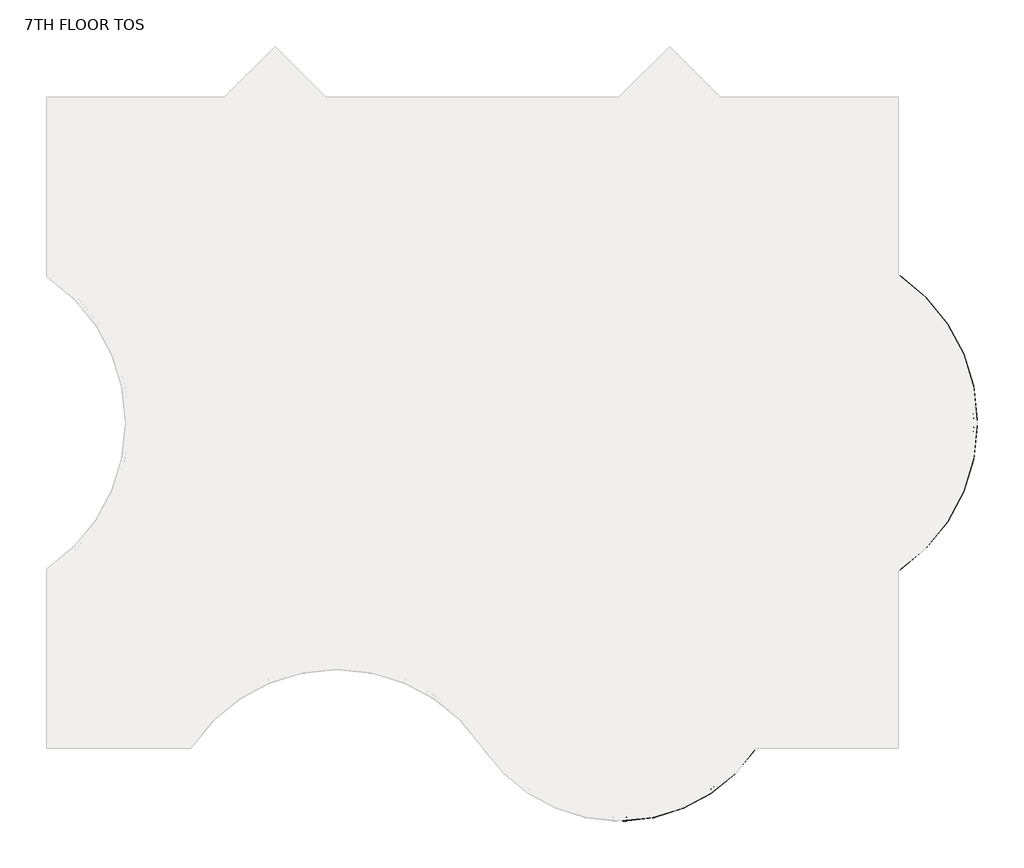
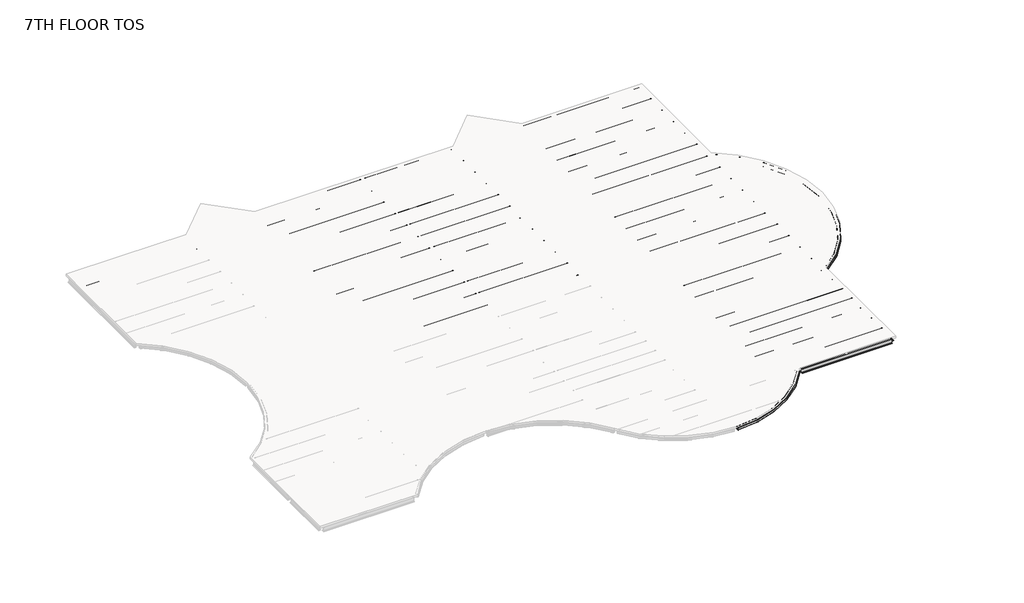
# One storey, part 2 of 2: 110 beams.
"""IFC4 building model written with IfcOpenShell, lengths in millimetres."""

from ifc_helpers import new_model, si_unit, origin, place, context, project, spatial, transform, mapped, element, save
from components import m_hss_square_hss203_2x203_2x9_5_28e91a4e, m_hss_square_hss203_2x203_2x9_5_f31329aa, m_hss_square_hss203_2x203_2x9_5_63507dff, ub_universal_beams_ub254x102x28_7812688d, ub_universal_beams_ub254x102x28_4a38c177, ub_universal_beams_ub305x165x40_c4d0385b, ub_universal_beams_ub305x165x40_19965e16, ub_universal_beams_ub305x165x40_d3abc31d, ub_universal_beams_ub305x165x40_0c73730f, ub_universal_beams_ub305x165x40_2a963f0c, ub_universal_beams_ub305x165x40_9ce7f2ee, ub_universal_beams_ub305x165x40_d184adfd, ub_universal_beams_ub305x165x40_bc7dc938, ub_universal_beams_ub305x165x40_b4233d25, ub_universal_beams_ub356x171x51_c708c058, ub_universal_beams_ub356x171x51_ef72dcdd, ub_universal_beams_ub356x171x51_10b3c54f, ub_universal_beams_ub356x171x51_4c9fd821, ub_universal_beams_ub356x171x51_d1a87c3c, ub_universal_beams_ub356x171x51_fa75724b, ub_universal_beams_ub356x171x51_68db896e, ub_universal_beams_ub356x171x51_c634c4a6, ub_universal_beams_ub356x171x51_995f1560, ub_universal_beams_ub356x171x51_dfc36663, ub_universal_beams_ub356x171x51_11d6b780, ub_universal_beams_ub356x171x51_76b2d20b, ub_universal_beams_ub356x171x51_145ecd4b, ub_universal_beams_ub356x171x51_c7dff8d2, ub_universal_beams_ub356x171x51_8a345439, ub_universal_beams_ub356x171x51_6da510e9, ub_universal_beams_ub356x171x51_e97f8d2e, ub_universal_beams_ub356x171x51_a38b99de, ub_universal_beams_ub356x171x51_d8f4cdde, ub_universal_beams_ub356x171x51_475301e6, ub_universal_beams_ub356x171x51_c03c70fb, ub_universal_beams_ub356x171x51_741bae58

model = new_model("IFC4")

# Units and contexts
model_context = context("Model", 3, world=origin())
ifc_project = project(units=[si_unit("LENGTHUNIT", "METRE", prefix="MILLI")], contexts=[model_context])

# Site, building, storey
site = spatial("IfcSite", under=ifc_project)
building = spatial("IfcBuilding", under=site)
storey = spatial("IfcBuildingStorey", under=building, Name="7TH FLOOR TOS", Elevation=31851.6)

# Beams
placement = place(None, origin())
m_hss_square_hss203_2x203_2x9_5_shape = m_hss_square_hss203_2x203_2x9_5_28e91a4e(model_context)
element("IfcBeam", 1, ObjectType="M_HSS Square : HSS203.2X203.2X9.5", at=placement, inside=storey, context=model_context, shape_type="MappedRepresentation", body=[
    mapped(m_hss_square_hss203_2x203_2x9_5_shape, transform((44027.575, 24539.575, 31750.1), x_axis=(0.8332810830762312, -0.5528495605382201, 0.0), y_axis=(0.5528495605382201, 0.8332810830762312, 0.0), z_axis=(0.0, 0.0, 1.0))),
])
m_hss_square_hss203_2x203_2x9_5_2_shape = m_hss_square_hss203_2x203_2x9_5_f31329aa(model_context)
element("IfcBeam", 2, ObjectType="M_HSS Square : HSS203.2X203.2X9.5", at=placement, inside=storey, context=model_context, shape_type="MappedRepresentation", body=[
    mapped(m_hss_square_hss203_2x203_2x9_5_2_shape, transform((44027.575, 9299.575, 31750.1), x_axis=(0.8332810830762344, 0.5528495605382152, 0.0), y_axis=(-0.5528495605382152, 0.8332810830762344, 0.0), z_axis=(0.0, 0.0, 1.0))),
])
m_hss_square_hss203_2x203_2x9_5_3_shape = m_hss_square_hss203_2x203_2x9_5_63507dff(model_context)
element("IfcBeam", 3, ObjectType="M_HSS Square : HSS203.2X203.2X9.5", at=placement, inside=storey, context=model_context, shape_type="MappedRepresentation", body=[
    mapped(m_hss_square_hss203_2x203_2x9_5_3_shape, transform((36716.575, 155.575, 31750.1), x_axis=(-0.5530174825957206, -0.8331696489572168, 0.0), y_axis=(0.8331696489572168, -0.5530174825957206, 0.0), z_axis=(0.0, 0.0, 1.0))),
])
ub_universal_beams_ub254x102x28_shape = ub_universal_beams_ub254x102x28_7812688d(model_context)
element("IfcBeam", 4, ObjectType="UB-Universal Beams : UB254x102x28", at=placement, inside=storey, context=model_context, shape_type="MappedRepresentation", body=[
    mapped(ub_universal_beams_ub254x102x28_shape, transform((10592.575, 34976.575, 31721.4), x_axis=(0.7071067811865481, 0.7071067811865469, 0.0), y_axis=(-0.7071067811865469, 0.7071067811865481, 0.0), z_axis=(0.0, 0.0, 1.0))),
])
element("IfcBeam", 5, ObjectType="UB-Universal Beams : UB254x102x28", at=placement, inside=storey, context=model_context, shape_type="MappedRepresentation", body=[
    mapped(ub_universal_beams_ub254x102x28_shape, transform((31004.575, 34976.575, 31721.4), x_axis=(0.7071067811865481, 0.7071067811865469, 0.0), y_axis=(-0.7071067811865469, 0.7071067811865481, 0.0), z_axis=(0.0, 0.0, 1.0))),
])
ub_universal_beams_ub254x102x28_2_shape = ub_universal_beams_ub254x102x28_4a38c177(model_context)
element("IfcBeam", 6, ObjectType="UB-Universal Beams : UB254x102x28", at=placement, inside=storey, context=model_context, shape_type="MappedRepresentation", body=[
    mapped(ub_universal_beams_ub254x102x28_2_shape, transform((13178.575, 34976.575, 31721.4), x_axis=(0.707106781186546, -0.707106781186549, 0.0), y_axis=(0.707106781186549, 0.707106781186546, 0.0), z_axis=(0.0, 0.0, 1.0))),
])
element("IfcBeam", 7, ObjectType="UB-Universal Beams : UB254x102x28", at=placement, inside=storey, context=model_context, shape_type="MappedRepresentation", body=[
    mapped(ub_universal_beams_ub254x102x28_2_shape, transform((33590.575, 34976.575, 31721.4), x_axis=(0.7071067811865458, -0.7071067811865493, 0.0), y_axis=(0.7071067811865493, 0.7071067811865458, 0.0), z_axis=(0.0, 0.0, 1.0))),
])
ub_universal_beams_ub305x165x40_shape = ub_universal_beams_ub305x165x40_c4d0385b(model_context)
element("IfcBeam", 8, ObjectType="UB-Universal Beams : UB305x165x40", at=placement, inside=storey, context=model_context, shape_type="MappedRepresentation", body=[
    mapped(ub_universal_beams_ub305x165x40_shape, transform((4727.575, 32159.575, 31699.9), x_axis=(1.0, 0.0, 0.0), y_axis=(0.0, 1.0, 0.0), z_axis=(0.0, 0.0, 1.0))),
])
element("IfcBeam", 9, ObjectType="UB-Universal Beams : UB305x165x40", at=placement, inside=storey, context=model_context, shape_type="MappedRepresentation", body=[
    mapped(ub_universal_beams_ub305x165x40_shape, transform((39455.575, 32159.575, 31699.9), x_axis=(1.0, 0.0, 0.0), y_axis=(0.0, 1.0, 0.0), z_axis=(0.0, 0.0, 1.0))),
])
element("IfcBeam", 10, ObjectType="UB-Universal Beams : UB305x165x40", at=placement, inside=storey, context=model_context, shape_type="MappedRepresentation", body=[
    mapped(ub_universal_beams_ub305x165x40_shape, transform((39455.575, 30635.575, 31699.9), x_axis=(1.0, 0.0, 0.0), y_axis=(0.0, 1.0, 0.0), z_axis=(0.0, 0.0, 1.0))),
])
element("IfcBeam", 11, ObjectType="UB-Universal Beams : UB305x165x40", at=placement, inside=storey, context=model_context, shape_type="MappedRepresentation", body=[
    mapped(ub_universal_beams_ub305x165x40_shape, transform((39455.575, 29111.575, 31699.9), x_axis=(1.0, 0.0, 0.0), y_axis=(0.0, 1.0, 0.0), z_axis=(0.0, 0.0, 1.0))),
])
element("IfcBeam", 12, ObjectType="UB-Universal Beams : UB305x165x40", at=placement, inside=storey, context=model_context, shape_type="MappedRepresentation", body=[
    mapped(ub_universal_beams_ub305x165x40_shape, transform((39455.575, 27587.575, 31699.9), x_axis=(1.0, 0.0, 0.0), y_axis=(0.0, 1.0, 0.0), z_axis=(0.0, 0.0, 1.0))),
])
element("IfcBeam", 13, ObjectType="UB-Universal Beams : UB305x165x40", at=placement, inside=storey, context=model_context, shape_type="MappedRepresentation", body=[
    mapped(ub_universal_beams_ub305x165x40_shape, transform((39455.575, 26063.575, 31699.9), x_axis=(1.0, 0.0, 0.0), y_axis=(0.0, 1.0, 0.0), z_axis=(0.0, 0.0, 1.0))),
])
element("IfcBeam", 14, ObjectType="UB-Universal Beams : UB305x165x40", at=placement, inside=storey, context=model_context, shape_type="MappedRepresentation", body=[
    mapped(ub_universal_beams_ub305x165x40_shape, transform((39455.575, 23015.575, 31699.9), x_axis=(1.0, 0.0, 0.0), y_axis=(0.0, 1.0, 0.0), z_axis=(0.0, 0.0, 1.0))),
])
element("IfcBeam", 15, ObjectType="UB-Universal Beams : UB305x165x40", at=placement, inside=storey, context=model_context, shape_type="MappedRepresentation", body=[
    mapped(ub_universal_beams_ub305x165x40_shape, transform((39455.575, 21491.575, 31699.9), x_axis=(1.0, 0.0, 0.0), y_axis=(0.0, 1.0, 0.0), z_axis=(0.0, 0.0, 1.0))),
])
element("IfcBeam", 16, ObjectType="UB-Universal Beams : UB305x165x40", at=placement, inside=storey, context=model_context, shape_type="MappedRepresentation", body=[
    mapped(ub_universal_beams_ub305x165x40_shape, transform((39455.575, 19967.575, 31699.9), x_axis=(1.0, 0.0, 0.0), y_axis=(0.0, 1.0, 0.0), z_axis=(0.0, 0.0, 1.0))),
])
element("IfcBeam", 17, ObjectType="UB-Universal Beams : UB305x165x40", at=placement, inside=storey, context=model_context, shape_type="MappedRepresentation", body=[
    mapped(ub_universal_beams_ub305x165x40_shape, transform((39455.575, 18443.575, 31699.9), x_axis=(1.0, 0.0, 0.0), y_axis=(0.0, 1.0, 0.0), z_axis=(0.0, 0.0, 1.0))),
])
element("IfcBeam", 18, ObjectType="UB-Universal Beams : UB305x165x40", at=placement, inside=storey, context=model_context, shape_type="MappedRepresentation", body=[
    mapped(ub_universal_beams_ub305x165x40_shape, transform((39455.575, 15395.575, 31699.9), x_axis=(1.0, 0.0, 0.0), y_axis=(0.0, 1.0, 0.0), z_axis=(0.0, 0.0, 1.0))),
])
element("IfcBeam", 19, ObjectType="UB-Universal Beams : UB305x165x40", at=placement, inside=storey, context=model_context, shape_type="MappedRepresentation", body=[
    mapped(ub_universal_beams_ub305x165x40_shape, transform((39455.575, 13871.575, 31699.9), x_axis=(1.0, 0.0, 0.0), y_axis=(0.0, 1.0, 0.0), z_axis=(0.0, 0.0, 1.0))),
])
element("IfcBeam", 20, ObjectType="UB-Universal Beams : UB305x165x40", at=placement, inside=storey, context=model_context, shape_type="MappedRepresentation", body=[
    mapped(ub_universal_beams_ub305x165x40_shape, transform((39455.575, 12347.575, 31699.9), x_axis=(1.0, 0.0, 0.0), y_axis=(0.0, 1.0, 0.0), z_axis=(0.0, 0.0, 1.0))),
])
element("IfcBeam", 21, ObjectType="UB-Universal Beams : UB305x165x40", at=placement, inside=storey, context=model_context, shape_type="MappedRepresentation", body=[
    mapped(ub_universal_beams_ub305x165x40_shape, transform((39455.575, 10823.575, 31699.9), x_axis=(1.0, 0.0, 0.0), y_axis=(0.0, 1.0, 0.0), z_axis=(0.0, 0.0, 1.0))),
])
element("IfcBeam", 22, ObjectType="UB-Universal Beams : UB305x165x40", at=placement, inside=storey, context=model_context, shape_type="MappedRepresentation", body=[
    mapped(ub_universal_beams_ub305x165x40_shape, transform((39455.575, 5508.325, 31699.9), x_axis=(-1.0, 0.0, 0.0), y_axis=(0.0, -1.0, 0.0), z_axis=(0.0, 0.0, 1.0))),
])
element("IfcBeam", 23, ObjectType="UB-Universal Beams : UB305x165x40", at=placement, inside=storey, context=model_context, shape_type="MappedRepresentation", body=[
    mapped(ub_universal_beams_ub305x165x40_shape, transform((39455.575, 6772.075, 31699.9), x_axis=(-1.0, 0.0, 0.0), y_axis=(0.0, -1.0, 0.0), z_axis=(0.0, 0.0, 1.0))),
])
element("IfcBeam", 24, ObjectType="UB-Universal Beams : UB305x165x40", at=placement, inside=storey, context=model_context, shape_type="MappedRepresentation", body=[
    mapped(ub_universal_beams_ub305x165x40_shape, transform((39455.575, 8035.825, 31699.9), x_axis=(-1.0, 0.0, 0.0), y_axis=(0.0, -1.0, 0.0), z_axis=(0.0, 0.0, 1.0))),
])
element("IfcBeam", 25, ObjectType="UB-Universal Beams : UB305x165x40", at=placement, inside=storey, context=model_context, shape_type="MappedRepresentation", body=[
    mapped(ub_universal_beams_ub305x165x40_shape, transform((39455.575, 1518.575, 31699.9), x_axis=(-1.0, 0.0, 0.0), y_axis=(0.0, -1.0, 0.0), z_axis=(0.0, 0.0, 1.0))),
])
element("IfcBeam", 26, ObjectType="UB-Universal Beams : UB305x165x40", at=placement, inside=storey, context=model_context, shape_type="MappedRepresentation", body=[
    mapped(ub_universal_beams_ub305x165x40_shape, transform((39455.575, 2881.575, 31699.9), x_axis=(-1.0, 0.0, 0.0), y_axis=(0.0, -1.0, 0.0), z_axis=(0.0, 0.0, 1.0))),
])
ub_universal_beams_ub305x165x40_2_shape = ub_universal_beams_ub305x165x40_19965e16(model_context)
element("IfcBeam", 27, ObjectType="UB-Universal Beams : UB305x165x40", at=placement, inside=storey, context=model_context, shape_type="MappedRepresentation", body=[
    mapped(ub_universal_beams_ub305x165x40_2_shape, transform((11885.575, 34803.325, 31699.9), x_axis=(1.0, 0.0, 0.0), y_axis=(0.0, 1.0, 0.0), z_axis=(0.0, 0.0, 1.0))),
])
element("IfcBeam", 28, ObjectType="UB-Universal Beams : UB305x165x40", at=placement, inside=storey, context=model_context, shape_type="MappedRepresentation", body=[
    mapped(ub_universal_beams_ub305x165x40_2_shape, transform((32297.575, 34803.325, 31699.9), x_axis=(1.0, 0.0, 0.0), y_axis=(0.0, 1.0, 0.0), z_axis=(0.0, 0.0, 1.0))),
])
ub_universal_beams_ub305x165x40_3_shape = ub_universal_beams_ub305x165x40_d3abc31d(model_context)
element("IfcBeam", 29, ObjectType="UB-Universal Beams : UB305x165x40", at=placement, inside=storey, context=model_context, shape_type="MappedRepresentation", body=[
    mapped(ub_universal_beams_ub305x165x40_3_shape, transform((11885.575, 33337.075, 31699.9), x_axis=(1.0, 0.0, 0.0), y_axis=(0.0, 1.0, 0.0), z_axis=(0.0, 0.0, 1.0))),
])
element("IfcBeam", 30, ObjectType="UB-Universal Beams : UB305x165x40", at=placement, inside=storey, context=model_context, shape_type="MappedRepresentation", body=[
    mapped(ub_universal_beams_ub305x165x40_3_shape, transform((11885.575, 31870.825, 31699.9), x_axis=(1.0, 0.0, 0.0), y_axis=(0.0, 1.0, 0.0), z_axis=(0.0, 0.0, 1.0))),
])
element("IfcBeam", 31, ObjectType="UB-Universal Beams : UB305x165x40", at=placement, inside=storey, context=model_context, shape_type="MappedRepresentation", body=[
    mapped(ub_universal_beams_ub305x165x40_3_shape, transform((11885.575, 30404.575, 31699.9), x_axis=(1.0, 0.0, 0.0), y_axis=(0.0, 1.0, 0.0), z_axis=(0.0, 0.0, 1.0))),
])
element("IfcBeam", 32, ObjectType="UB-Universal Beams : UB305x165x40", at=placement, inside=storey, context=model_context, shape_type="MappedRepresentation", body=[
    mapped(ub_universal_beams_ub305x165x40_3_shape, transform((32297.575, 33337.075, 31699.9), x_axis=(1.0, 0.0, 0.0), y_axis=(0.0, 1.0, 0.0), z_axis=(0.0, 0.0, 1.0))),
])
element("IfcBeam", 33, ObjectType="UB-Universal Beams : UB305x165x40", at=placement, inside=storey, context=model_context, shape_type="MappedRepresentation", body=[
    mapped(ub_universal_beams_ub305x165x40_3_shape, transform((32297.575, 31870.825, 31699.9), x_axis=(1.0, 0.0, 0.0), y_axis=(0.0, 1.0, 0.0), z_axis=(0.0, 0.0, 1.0))),
])
element("IfcBeam", 34, ObjectType="UB-Universal Beams : UB305x165x40", at=placement, inside=storey, context=model_context, shape_type="MappedRepresentation", body=[
    mapped(ub_universal_beams_ub305x165x40_3_shape, transform((32297.575, 30404.575, 31699.9), x_axis=(1.0, 0.0, 0.0), y_axis=(0.0, 1.0, 0.0), z_axis=(0.0, 0.0, 1.0))),
])
element("IfcBeam", 35, ObjectType="UB-Universal Beams : UB305x165x40", at=placement, inside=storey, context=model_context, shape_type="MappedRepresentation", body=[
    mapped(ub_universal_beams_ub305x165x40_3_shape, transform((32297.575, 28938.325, 31699.9), x_axis=(1.0, 0.0, 0.0), y_axis=(0.0, 1.0, 0.0), z_axis=(0.0, 0.0, 1.0))),
])
element("IfcBeam", 36, ObjectType="UB-Universal Beams : UB305x165x40", at=placement, inside=storey, context=model_context, shape_type="MappedRepresentation", body=[
    mapped(ub_universal_beams_ub305x165x40_3_shape, transform((32297.575, 27472.075, 31699.9), x_axis=(1.0, 0.0, 0.0), y_axis=(0.0, 1.0, 0.0), z_axis=(0.0, 0.0, 1.0))),
])
element("IfcBeam", 37, ObjectType="UB-Universal Beams : UB305x165x40", at=placement, inside=storey, context=model_context, shape_type="MappedRepresentation", body=[
    mapped(ub_universal_beams_ub305x165x40_3_shape, transform((32297.575, 26005.825, 31699.9), x_axis=(1.0, 0.0, 0.0), y_axis=(0.0, 1.0, 0.0), z_axis=(0.0, 0.0, 1.0))),
])
element("IfcBeam", 38, ObjectType="UB-Universal Beams : UB305x165x40", at=placement, inside=storey, context=model_context, shape_type="MappedRepresentation", body=[
    mapped(ub_universal_beams_ub305x165x40_3_shape, transform((32297.575, 1518.575, 31699.9), x_axis=(-1.0, 0.0, 0.0), y_axis=(0.0, -1.0, 0.0), z_axis=(0.0, 0.0, 1.0))),
])
element("IfcBeam", 39, ObjectType="UB-Universal Beams : UB305x165x40", at=placement, inside=storey, context=model_context, shape_type="MappedRepresentation", body=[
    mapped(ub_universal_beams_ub305x165x40_3_shape, transform((32297.575, 2881.575, 31699.9), x_axis=(-1.0, 0.0, 0.0), y_axis=(0.0, -1.0, 0.0), z_axis=(0.0, 0.0, 1.0))),
])
element("IfcBeam", 40, ObjectType="UB-Universal Beams : UB305x165x40", at=placement, inside=storey, context=model_context, shape_type="MappedRepresentation", body=[
    mapped(ub_universal_beams_ub305x165x40_3_shape, transform((32297.575, 5508.325, 31699.9), x_axis=(-1.0, 0.0, 0.0), y_axis=(0.0, -1.0, 0.0), z_axis=(0.0, 0.0, 1.0))),
])
element("IfcBeam", 41, ObjectType="UB-Universal Beams : UB305x165x40", at=placement, inside=storey, context=model_context, shape_type="MappedRepresentation", body=[
    mapped(ub_universal_beams_ub305x165x40_3_shape, transform((32297.575, 6772.075, 31699.9), x_axis=(-1.0, 0.0, 0.0), y_axis=(0.0, -1.0, 0.0), z_axis=(0.0, 0.0, 1.0))),
])
element("IfcBeam", 42, ObjectType="UB-Universal Beams : UB305x165x40", at=placement, inside=storey, context=model_context, shape_type="MappedRepresentation", body=[
    mapped(ub_universal_beams_ub305x165x40_3_shape, transform((32297.575, 8035.825, 31699.9), x_axis=(-1.0, 0.0, 0.0), y_axis=(0.0, -1.0, 0.0), z_axis=(0.0, 0.0, 1.0))),
])
element("IfcBeam", 43, ObjectType="UB-Universal Beams : UB305x165x40", at=placement, inside=storey, context=model_context, shape_type="MappedRepresentation", body=[
    mapped(ub_universal_beams_ub305x165x40_3_shape, transform((32297.575, 15395.575, 31699.9), x_axis=(1.0, 0.0, 0.0), y_axis=(0.0, 1.0, 0.0), z_axis=(0.0, 0.0, 1.0))),
])
element("IfcBeam", 44, ObjectType="UB-Universal Beams : UB305x165x40", at=placement, inside=storey, context=model_context, shape_type="MappedRepresentation", body=[
    mapped(ub_universal_beams_ub305x165x40_3_shape, transform((32297.575, 13871.575, 31699.9), x_axis=(1.0, 0.0, 0.0), y_axis=(0.0, 1.0, 0.0), z_axis=(0.0, 0.0, 1.0))),
])
element("IfcBeam", 45, ObjectType="UB-Universal Beams : UB305x165x40", at=placement, inside=storey, context=model_context, shape_type="MappedRepresentation", body=[
    mapped(ub_universal_beams_ub305x165x40_3_shape, transform((32297.575, 12347.575, 31699.9), x_axis=(1.0, 0.0, 0.0), y_axis=(0.0, 1.0, 0.0), z_axis=(0.0, 0.0, 1.0))),
])
element("IfcBeam", 46, ObjectType="UB-Universal Beams : UB305x165x40", at=placement, inside=storey, context=model_context, shape_type="MappedRepresentation", body=[
    mapped(ub_universal_beams_ub305x165x40_3_shape, transform((32297.575, 10823.575, 31699.9), x_axis=(1.0, 0.0, 0.0), y_axis=(0.0, 1.0, 0.0), z_axis=(0.0, 0.0, 1.0))),
])
element("IfcBeam", 47, ObjectType="UB-Universal Beams : UB305x165x40", at=placement, inside=storey, context=model_context, shape_type="MappedRepresentation", body=[
    mapped(ub_universal_beams_ub305x165x40_3_shape, transform((32297.575, 23015.575, 31699.9), x_axis=(1.0, 0.0, 0.0), y_axis=(0.0, 1.0, 0.0), z_axis=(0.0, 0.0, 1.0))),
])
element("IfcBeam", 48, ObjectType="UB-Universal Beams : UB305x165x40", at=placement, inside=storey, context=model_context, shape_type="MappedRepresentation", body=[
    mapped(ub_universal_beams_ub305x165x40_3_shape, transform((32297.575, 21491.575, 31699.9), x_axis=(1.0, 0.0, 0.0), y_axis=(0.0, 1.0, 0.0), z_axis=(0.0, 0.0, 1.0))),
])
element("IfcBeam", 49, ObjectType="UB-Universal Beams : UB305x165x40", at=placement, inside=storey, context=model_context, shape_type="MappedRepresentation", body=[
    mapped(ub_universal_beams_ub305x165x40_3_shape, transform((32297.575, 19967.575, 31699.9), x_axis=(1.0, 0.0, 0.0), y_axis=(0.0, 1.0, 0.0), z_axis=(0.0, 0.0, 1.0))),
])
element("IfcBeam", 50, ObjectType="UB-Universal Beams : UB305x165x40", at=placement, inside=storey, context=model_context, shape_type="MappedRepresentation", body=[
    mapped(ub_universal_beams_ub305x165x40_3_shape, transform((32297.575, 18443.575, 31699.9), x_axis=(1.0, 0.0, 0.0), y_axis=(0.0, 1.0, 0.0), z_axis=(0.0, 0.0, 1.0))),
])
ub_universal_beams_ub305x165x40_4_shape = ub_universal_beams_ub305x165x40_0c73730f(model_context)
element("IfcBeam", 51, ObjectType="UB-Universal Beams : UB305x165x40", at=placement, inside=storey, context=model_context, shape_type="MappedRepresentation", body=[
    mapped(ub_universal_beams_ub305x165x40_4_shape, transform((18591.075, 32159.575, 31699.9), x_axis=(1.0, 0.0, 0.0), y_axis=(0.0, 1.0, 0.0), z_axis=(0.0, 0.0, 1.0))),
])
element("IfcBeam", 52, ObjectType="UB-Universal Beams : UB305x165x40", at=placement, inside=storey, context=model_context, shape_type="MappedRepresentation", body=[
    mapped(ub_universal_beams_ub305x165x40_4_shape, transform((18591.075, 30635.575, 31699.9), x_axis=(1.0, 0.0, 0.0), y_axis=(0.0, 1.0, 0.0), z_axis=(0.0, 0.0, 1.0))),
])
element("IfcBeam", 53, ObjectType="UB-Universal Beams : UB305x165x40", at=placement, inside=storey, context=model_context, shape_type="MappedRepresentation", body=[
    mapped(ub_universal_beams_ub305x165x40_4_shape, transform((18591.075, 29111.575, 31699.9), x_axis=(1.0, 0.0, 0.0), y_axis=(0.0, 1.0, 0.0), z_axis=(0.0, 0.0, 1.0))),
])
element("IfcBeam", 54, ObjectType="UB-Universal Beams : UB305x165x40", at=placement, inside=storey, context=model_context, shape_type="MappedRepresentation", body=[
    mapped(ub_universal_beams_ub305x165x40_4_shape, transform((18591.075, 27587.575, 31699.9), x_axis=(1.0, 0.0, 0.0), y_axis=(0.0, 1.0, 0.0), z_axis=(0.0, 0.0, 1.0))),
])
element("IfcBeam", 55, ObjectType="UB-Universal Beams : UB305x165x40", at=placement, inside=storey, context=model_context, shape_type="MappedRepresentation", body=[
    mapped(ub_universal_beams_ub305x165x40_4_shape, transform((18591.075, 26063.575, 31699.9), x_axis=(1.0, 0.0, 0.0), y_axis=(0.0, 1.0, 0.0), z_axis=(0.0, 0.0, 1.0))),
])
element("IfcBeam", 56, ObjectType="UB-Universal Beams : UB305x165x40", at=placement, inside=storey, context=model_context, shape_type="MappedRepresentation", body=[
    mapped(ub_universal_beams_ub305x165x40_4_shape, transform((18591.075, 23015.575, 31699.9), x_axis=(1.0, 0.0, 0.0), y_axis=(0.0, 1.0, 0.0), z_axis=(0.0, 0.0, 1.0))),
])
element("IfcBeam", 57, ObjectType="UB-Universal Beams : UB305x165x40", at=placement, inside=storey, context=model_context, shape_type="MappedRepresentation", body=[
    mapped(ub_universal_beams_ub305x165x40_4_shape, transform((18591.075, 21491.575, 31699.9), x_axis=(1.0, 0.0, 0.0), y_axis=(0.0, 1.0, 0.0), z_axis=(0.0, 0.0, 1.0))),
])
element("IfcBeam", 58, ObjectType="UB-Universal Beams : UB305x165x40", at=placement, inside=storey, context=model_context, shape_type="MappedRepresentation", body=[
    mapped(ub_universal_beams_ub305x165x40_4_shape, transform((18591.075, 19967.575, 31699.9), x_axis=(1.0, 0.0, 0.0), y_axis=(0.0, 1.0, 0.0), z_axis=(0.0, 0.0, 1.0))),
])
element("IfcBeam", 59, ObjectType="UB-Universal Beams : UB305x165x40", at=placement, inside=storey, context=model_context, shape_type="MappedRepresentation", body=[
    mapped(ub_universal_beams_ub305x165x40_4_shape, transform((18591.075, 18443.575, 31699.9), x_axis=(1.0, 0.0, 0.0), y_axis=(0.0, 1.0, 0.0), z_axis=(0.0, 0.0, 1.0))),
])
ub_universal_beams_ub305x165x40_5_shape = ub_universal_beams_ub305x165x40_2a963f0c(model_context)
element("IfcBeam", 60, ObjectType="UB-Universal Beams : UB305x165x40", at=placement, inside=storey, context=model_context, shape_type="MappedRepresentation", body=[
    mapped(ub_universal_beams_ub305x165x40_5_shape, transform((26211.075, 32159.575, 31699.9), x_axis=(1.0, 0.0, 0.0), y_axis=(0.0, 1.0, 0.0), z_axis=(0.0, 0.0, 1.0))),
])
element("IfcBeam", 61, ObjectType="UB-Universal Beams : UB305x165x40", at=placement, inside=storey, context=model_context, shape_type="MappedRepresentation", body=[
    mapped(ub_universal_beams_ub305x165x40_5_shape, transform((26211.075, 30635.575, 31699.9), x_axis=(1.0, 0.0, 0.0), y_axis=(0.0, 1.0, 0.0), z_axis=(0.0, 0.0, 1.0))),
])
element("IfcBeam", 62, ObjectType="UB-Universal Beams : UB305x165x40", at=placement, inside=storey, context=model_context, shape_type="MappedRepresentation", body=[
    mapped(ub_universal_beams_ub305x165x40_5_shape, transform((26211.075, 29111.575, 31699.9), x_axis=(1.0, 0.0, 0.0), y_axis=(0.0, 1.0, 0.0), z_axis=(0.0, 0.0, 1.0))),
])
element("IfcBeam", 63, ObjectType="UB-Universal Beams : UB305x165x40", at=placement, inside=storey, context=model_context, shape_type="MappedRepresentation", body=[
    mapped(ub_universal_beams_ub305x165x40_5_shape, transform((26211.075, 27587.575, 31699.9), x_axis=(1.0, 0.0, 0.0), y_axis=(0.0, 1.0, 0.0), z_axis=(0.0, 0.0, 1.0))),
])
element("IfcBeam", 64, ObjectType="UB-Universal Beams : UB305x165x40", at=placement, inside=storey, context=model_context, shape_type="MappedRepresentation", body=[
    mapped(ub_universal_beams_ub305x165x40_5_shape, transform((26211.075, 26063.575, 31699.9), x_axis=(1.0, 0.0, 0.0), y_axis=(0.0, 1.0, 0.0), z_axis=(0.0, 0.0, 1.0))),
])
element("IfcBeam", 65, ObjectType="UB-Universal Beams : UB305x165x40", at=placement, inside=storey, context=model_context, shape_type="MappedRepresentation", body=[
    mapped(ub_universal_beams_ub305x165x40_5_shape, transform((26211.075, 23015.575, 31699.9), x_axis=(1.0, 0.0, 0.0), y_axis=(0.0, 1.0, 0.0), z_axis=(0.0, 0.0, 1.0))),
])
element("IfcBeam", 66, ObjectType="UB-Universal Beams : UB305x165x40", at=placement, inside=storey, context=model_context, shape_type="MappedRepresentation", body=[
    mapped(ub_universal_beams_ub305x165x40_5_shape, transform((26211.075, 21491.575, 31699.9), x_axis=(1.0, 0.0, 0.0), y_axis=(0.0, 1.0, 0.0), z_axis=(0.0, 0.0, 1.0))),
])
element("IfcBeam", 67, ObjectType="UB-Universal Beams : UB305x165x40", at=placement, inside=storey, context=model_context, shape_type="MappedRepresentation", body=[
    mapped(ub_universal_beams_ub305x165x40_5_shape, transform((26211.075, 19967.575, 31699.9), x_axis=(1.0, 0.0, 0.0), y_axis=(0.0, 1.0, 0.0), z_axis=(0.0, 0.0, 1.0))),
])
element("IfcBeam", 68, ObjectType="UB-Universal Beams : UB305x165x40", at=placement, inside=storey, context=model_context, shape_type="MappedRepresentation", body=[
    mapped(ub_universal_beams_ub305x165x40_5_shape, transform((26211.075, 18443.575, 31699.9), x_axis=(1.0, 0.0, 0.0), y_axis=(0.0, 1.0, 0.0), z_axis=(0.0, 0.0, 1.0))),
])
ub_universal_beams_ub305x165x40_6_shape = ub_universal_beams_ub305x165x40_9ce7f2ee(model_context)
element("IfcBeam", 69, ObjectType="UB-Universal Beams : UB305x165x40", at=placement, inside=storey, context=model_context, shape_type="MappedRepresentation", body=[
    mapped(ub_universal_beams_ub305x165x40_6_shape, transform((44907.9405309, 23015.575, 31699.9), x_axis=(1.0, 0.0, 0.0), y_axis=(0.0, 1.0, 0.0), z_axis=(0.0, 0.0, 1.0))),
])
element("IfcBeam", 70, ObjectType="UB-Universal Beams : UB305x165x40", at=placement, inside=storey, context=model_context, shape_type="MappedRepresentation", body=[
    mapped(ub_universal_beams_ub305x165x40_6_shape, transform((44907.9405309, 10823.575, 31699.9), x_axis=(1.0, 0.0, 0.0), y_axis=(0.0, 1.0, 0.0), z_axis=(0.0, 0.0, 1.0))),
])
ub_universal_beams_ub305x165x40_7_shape = ub_universal_beams_ub305x165x40_d184adfd(model_context)
element("IfcBeam", 71, ObjectType="UB-Universal Beams : UB305x165x40", at=placement, inside=storey, context=model_context, shape_type="MappedRepresentation", body=[
    mapped(ub_universal_beams_ub305x165x40_7_shape, transform((45459.5874928, 21491.575, 31699.9), x_axis=(1.0, 0.0, 0.0), y_axis=(0.0, 1.0, 0.0), z_axis=(0.0, 0.0, 1.0))),
])
element("IfcBeam", 72, ObjectType="UB-Universal Beams : UB305x165x40", at=placement, inside=storey, context=model_context, shape_type="MappedRepresentation", body=[
    mapped(ub_universal_beams_ub305x165x40_7_shape, transform((45459.5874928, 12347.575, 31699.9), x_axis=(1.0, 0.0, 0.0), y_axis=(0.0, 1.0, 0.0), z_axis=(0.0, 0.0, 1.0))),
])
ub_universal_beams_ub305x165x40_8_shape = ub_universal_beams_ub305x165x40_bc7dc938(model_context)
element("IfcBeam", 73, ObjectType="UB-Universal Beams : UB305x165x40", at=placement, inside=storey, context=model_context, shape_type="MappedRepresentation", body=[
    mapped(ub_universal_beams_ub305x165x40_8_shape, transform((45810.6153272, 19967.575, 31699.9), x_axis=(1.0, 0.0, 0.0), y_axis=(0.0, 1.0, 0.0), z_axis=(0.0, 0.0, 1.0))),
])
element("IfcBeam", 74, ObjectType="UB-Universal Beams : UB305x165x40", at=placement, inside=storey, context=model_context, shape_type="MappedRepresentation", body=[
    mapped(ub_universal_beams_ub305x165x40_8_shape, transform((45810.6153272, 13871.575, 31699.9), x_axis=(1.0, 0.0, 0.0), y_axis=(0.0, 1.0, 0.0), z_axis=(0.0, 0.0, 1.0))),
])
ub_universal_beams_ub305x165x40_9_shape = ub_universal_beams_ub305x165x40_b4233d25(model_context)
element("IfcBeam", 75, ObjectType="UB-Universal Beams : UB305x165x40", at=placement, inside=storey, context=model_context, shape_type="MappedRepresentation", body=[
    mapped(ub_universal_beams_ub305x165x40_9_shape, transform((46008.1318611, 18443.575, 31699.9), x_axis=(1.0, 0.0, 0.0), y_axis=(0.0, 1.0, 0.0), z_axis=(0.0, 0.0, 1.0))),
])
element("IfcBeam", 76, ObjectType="UB-Universal Beams : UB305x165x40", at=placement, inside=storey, context=model_context, shape_type="MappedRepresentation", body=[
    mapped(ub_universal_beams_ub305x165x40_9_shape, transform((46008.1318611, 15395.575, 31699.9), x_axis=(1.0, 0.0, 0.0), y_axis=(0.0, 1.0, 0.0), z_axis=(0.0, 0.0, 1.0))),
])
ub_universal_beams_ub356x171x51_shape = ub_universal_beams_ub356x171x51_c708c058(model_context)
element("IfcBeam", 77, ObjectType="UB-Universal Beams : UB356x171x51", at=placement, inside=storey, context=model_context, shape_type="MappedRepresentation", body=[
    mapped(ub_universal_beams_ub356x171x51_shape, transform((2200.075, 33683.575, 31674.1), x_axis=(1.0, 0.0, 0.0), y_axis=(0.0, 1.0, 0.0), z_axis=(0.0, 0.0, 1.0))),
])
ub_universal_beams_ub356x171x51_2_shape = ub_universal_beams_ub356x171x51_ef72dcdd(model_context)
element("IfcBeam", 78, ObjectType="UB-Universal Beams : UB356x171x51", at=placement, inside=storey, context=model_context, shape_type="MappedRepresentation", body=[
    mapped(ub_universal_beams_ub356x171x51_2_shape, transform((6772.075, 33683.575, 31674.1), x_axis=(1.0, 0.0, 0.0), y_axis=(0.0, 1.0, 0.0), z_axis=(0.0, 0.0, 1.0))),
])
element("IfcBeam", 79, ObjectType="UB-Universal Beams : UB356x171x51", at=placement, inside=storey, context=model_context, shape_type="MappedRepresentation", body=[
    mapped(ub_universal_beams_ub356x171x51_2_shape, transform((34883.575, 6772.075, 31674.1), x_axis=(0.0, -1.0, 0.0), y_axis=(1.0, 0.0, 0.0), z_axis=(0.0, 0.0, 1.0))),
])
ub_universal_beams_ub356x171x51_3_shape = ub_universal_beams_ub356x171x51_10b3c54f(model_context)
element("IfcBeam", 80, ObjectType="UB-Universal Beams : UB356x171x51", at=placement, inside=storey, context=model_context, shape_type="MappedRepresentation", body=[
    mapped(ub_universal_beams_ub356x171x51_3_shape, transform((18591.075, 33683.575, 31674.1), x_axis=(1.0, 0.0, 0.0), y_axis=(0.0, 1.0, 0.0), z_axis=(0.0, 0.0, 1.0))),
])
ub_universal_beams_ub356x171x51_4_shape = ub_universal_beams_ub356x171x51_4c9fd821(model_context)
element("IfcBeam", 81, ObjectType="UB-Universal Beams : UB356x171x51", at=placement, inside=storey, context=model_context, shape_type="MappedRepresentation", body=[
    mapped(ub_universal_beams_ub356x171x51_4_shape, transform((26211.075, 33683.575, 31674.1), x_axis=(1.0, 0.0, 0.0), y_axis=(0.0, 1.0, 0.0), z_axis=(0.0, 0.0, 1.0))),
])
ub_universal_beams_ub356x171x51_5_shape = ub_universal_beams_ub356x171x51_d1a87c3c(model_context)
element("IfcBeam", 82, ObjectType="UB-Universal Beams : UB356x171x51", at=placement, inside=storey, context=model_context, shape_type="MappedRepresentation", body=[
    mapped(ub_universal_beams_ub356x171x51_5_shape, transform((39455.575, 33683.575, 31674.1), x_axis=(1.0, 0.0, 0.0), y_axis=(0.0, 1.0, 0.0), z_axis=(0.0, 0.0, 1.0))),
])
ub_universal_beams_ub356x171x51_6_shape = ub_universal_beams_ub356x171x51_fa75724b(model_context)
element("IfcBeam", 83, ObjectType="UB-Universal Beams : UB356x171x51", at=placement, inside=storey, context=model_context, shape_type="MappedRepresentation", body=[
    mapped(ub_universal_beams_ub356x171x51_6_shape, transform((44027.575, 29111.575, 31674.1), x_axis=(0.0, -1.0, 0.0), y_axis=(1.0, 0.0, 0.0), z_axis=(0.0, 0.0, 1.0))),
])
ub_universal_beams_ub356x171x51_7_shape = ub_universal_beams_ub356x171x51_68db896e(model_context)
element("IfcBeam", 84, ObjectType="UB-Universal Beams : UB356x171x51", at=placement, inside=storey, context=model_context, shape_type="MappedRepresentation", body=[
    mapped(ub_universal_beams_ub356x171x51_7_shape, transform((44027.575, 6772.075, 31674.1), x_axis=(0.0, -1.0, 0.0), y_axis=(1.0, 0.0, 0.0), z_axis=(0.0, 0.0, 1.0))),
])
ub_universal_beams_ub356x171x51_8_shape = ub_universal_beams_ub356x171x51_c634c4a6(model_context)
element("IfcBeam", 85, ObjectType="UB-Universal Beams : UB356x171x51", at=placement, inside=storey, context=model_context, shape_type="MappedRepresentation", body=[
    mapped(ub_universal_beams_ub356x171x51_8_shape, transform((44027.575, 2200.075, 31674.1), x_axis=(0.0, -1.0, 0.0), y_axis=(1.0, 0.0, 0.0), z_axis=(0.0, 0.0, 1.0))),
])
ub_universal_beams_ub356x171x51_9_shape = ub_universal_beams_ub356x171x51_995f1560(model_context)
element("IfcBeam", 86, ObjectType="UB-Universal Beams : UB356x171x51", at=placement, inside=storey, context=model_context, shape_type="MappedRepresentation", body=[
    mapped(ub_universal_beams_ub356x171x51_9_shape, transform((40372.075, 155.575, 31674.1), x_axis=(-1.0, 0.0, 0.0), y_axis=(0.0, -1.0, 0.0), z_axis=(0.0, 0.0, 1.0))),
])
ub_universal_beams_ub356x171x51_10_shape = ub_universal_beams_ub356x171x51_dfc36663(model_context)
element("IfcBeam", 87, ObjectType="UB-Universal Beams : UB356x171x51", at=placement, inside=storey, context=model_context, shape_type="MappedRepresentation", body=[
    mapped(ub_universal_beams_ub356x171x51_10_shape, transform((46072.075, 16919.575, 31674.1), x_axis=(1.0, 0.0, 0.0), y_axis=(0.0, 1.0, 0.0), z_axis=(0.0, 0.0, 1.0))),
])
ub_universal_beams_ub356x171x51_11_shape = ub_universal_beams_ub356x171x51_11d6b780(model_context)
element("IfcBeam", 88, ObjectType="UB-Universal Beams : UB356x171x51", at=placement, inside=storey, context=model_context, shape_type="MappedRepresentation", body=[
    mapped(ub_universal_beams_ub356x171x51_11_shape, transform((32297.575, 24539.575, 31674.1), x_axis=(1.0, 0.0, 0.0), y_axis=(0.0, 1.0, 0.0), z_axis=(0.0, 0.0, 1.0))),
])
element("IfcBeam", 89, ObjectType="UB-Universal Beams : UB356x171x51", at=placement, inside=storey, context=model_context, shape_type="MappedRepresentation", body=[
    mapped(ub_universal_beams_ub356x171x51_11_shape, transform((32297.575, 9299.575, 31674.1), x_axis=(-1.0, 0.0, 0.0), y_axis=(0.0, -1.0, 0.0), z_axis=(0.0, 0.0, 1.0))),
])
element("IfcBeam", 90, ObjectType="UB-Universal Beams : UB356x171x51", at=placement, inside=storey, context=model_context, shape_type="MappedRepresentation", body=[
    mapped(ub_universal_beams_ub356x171x51_11_shape, transform((32297.575, 16919.575, 31674.1), x_axis=(1.0, 0.0, 0.0), y_axis=(0.0, 1.0, 0.0), z_axis=(0.0, 0.0, 1.0))),
])
element("IfcBeam", 91, ObjectType="UB-Universal Beams : UB356x171x51", at=placement, inside=storey, context=model_context, shape_type="MappedRepresentation", body=[
    mapped(ub_universal_beams_ub356x171x51_11_shape, transform((32297.575, 4244.575, 31674.1), x_axis=(-1.0, 0.0, 0.0), y_axis=(0.0, -1.0, 0.0), z_axis=(0.0, 0.0, 1.0))),
])
ub_universal_beams_ub356x171x51_12_shape = ub_universal_beams_ub356x171x51_76b2d20b(model_context)
element("IfcBeam", 92, ObjectType="UB-Universal Beams : UB356x171x51", at=placement, inside=storey, context=model_context, shape_type="MappedRepresentation", body=[
    mapped(ub_universal_beams_ub356x171x51_12_shape, transform((18591.075, 24539.575, 31674.1), x_axis=(1.0, 0.0, 0.0), y_axis=(0.0, 1.0, 0.0), z_axis=(0.0, 0.0, 1.0))),
])
element("IfcBeam", 93, ObjectType="UB-Universal Beams : UB356x171x51", at=placement, inside=storey, context=model_context, shape_type="MappedRepresentation", body=[
    mapped(ub_universal_beams_ub356x171x51_12_shape, transform((18591.075, 16919.575, 31674.1), x_axis=(1.0, 0.0, 0.0), y_axis=(0.0, 1.0, 0.0), z_axis=(0.0, 0.0, 1.0))),
])
ub_universal_beams_ub356x171x51_13_shape = ub_universal_beams_ub356x171x51_145ecd4b(model_context)
element("IfcBeam", 94, ObjectType="UB-Universal Beams : UB356x171x51", at=placement, inside=storey, context=model_context, shape_type="MappedRepresentation", body=[
    mapped(ub_universal_beams_ub356x171x51_13_shape, transform((26211.075, 24539.575, 31674.1), x_axis=(1.0, 0.0, 0.0), y_axis=(0.0, 1.0, 0.0), z_axis=(0.0, 0.0, 1.0))),
])
element("IfcBeam", 95, ObjectType="UB-Universal Beams : UB356x171x51", at=placement, inside=storey, context=model_context, shape_type="MappedRepresentation", body=[
    mapped(ub_universal_beams_ub356x171x51_13_shape, transform((26211.075, 16919.575, 31674.1), x_axis=(1.0, 0.0, 0.0), y_axis=(0.0, 1.0, 0.0), z_axis=(0.0, 0.0, 1.0))),
])
ub_universal_beams_ub356x171x51_14_shape = ub_universal_beams_ub356x171x51_c7dff8d2(model_context)
element("IfcBeam", 96, ObjectType="UB-Universal Beams : UB356x171x51", at=placement, inside=storey, context=model_context, shape_type="MappedRepresentation", body=[
    mapped(ub_universal_beams_ub356x171x51_14_shape, transform((39455.575, 24539.575, 31674.1), x_axis=(1.0, 0.0, 0.0), y_axis=(0.0, 1.0, 0.0), z_axis=(0.0, 0.0, 1.0))),
])
ub_universal_beams_ub356x171x51_15_shape = ub_universal_beams_ub356x171x51_8a345439(model_context)
element("IfcBeam", 97, ObjectType="UB-Universal Beams : UB356x171x51", at=placement, inside=storey, context=model_context, shape_type="MappedRepresentation", body=[
    mapped(ub_universal_beams_ub356x171x51_15_shape, transform((44027.575, 20729.575, 31674.1), x_axis=(0.0, -1.0, 0.0), y_axis=(1.0, 0.0, 0.0), z_axis=(0.0, 0.0, 1.0))),
])
ub_universal_beams_ub356x171x51_16_shape = ub_universal_beams_ub356x171x51_6da510e9(model_context)
element("IfcBeam", 98, ObjectType="UB-Universal Beams : UB356x171x51", at=placement, inside=storey, context=model_context, shape_type="MappedRepresentation", body=[
    mapped(ub_universal_beams_ub356x171x51_16_shape, transform((44027.575, 13109.575, 31674.1), x_axis=(0.0, -1.0, 0.0), y_axis=(1.0, 0.0, 0.0), z_axis=(0.0, 0.0, 1.0))),
])
ub_universal_beams_ub356x171x51_17_shape = ub_universal_beams_ub356x171x51_e97f8d2e(model_context)
element("IfcBeam", 99, ObjectType="UB-Universal Beams : UB356x171x51", at=placement, inside=storey, context=model_context, shape_type="MappedRepresentation", body=[
    mapped(ub_universal_beams_ub356x171x51_17_shape, transform((39455.575, 9299.575, 31674.1), x_axis=(-1.0, 0.0, 0.0), y_axis=(0.0, -1.0, 0.0), z_axis=(0.0, 0.0, 1.0))),
])
ub_universal_beams_ub356x171x51_18_shape = ub_universal_beams_ub356x171x51_a38b99de(model_context)
element("IfcBeam", 100, ObjectType="UB-Universal Beams : UB356x171x51", at=placement, inside=storey, context=model_context, shape_type="MappedRepresentation", body=[
    mapped(ub_universal_beams_ub356x171x51_18_shape, transform((34883.575, 20729.575, 31674.1), x_axis=(0.0, -1.0, 0.0), y_axis=(1.0, 0.0, 0.0), z_axis=(0.0, 0.0, 1.0))),
])
element("IfcBeam", 101, ObjectType="UB-Universal Beams : UB356x171x51", at=placement, inside=storey, context=model_context, shape_type="MappedRepresentation", body=[
    mapped(ub_universal_beams_ub356x171x51_18_shape, transform((34883.575, 13109.575, 31674.1), x_axis=(0.0, -1.0, 0.0), y_axis=(1.0, 0.0, 0.0), z_axis=(0.0, 0.0, 1.0))),
])
element("IfcBeam", 102, ObjectType="UB-Universal Beams : UB356x171x51", at=placement, inside=storey, context=model_context, shape_type="MappedRepresentation", body=[
    mapped(ub_universal_beams_ub356x171x51_18_shape, transform((22710.575, 20729.575, 31674.1), x_axis=(0.0, -1.0, 0.0), y_axis=(1.0, 0.0, 0.0), z_axis=(0.0, 0.0, 1.0))),
])
element("IfcBeam", 103, ObjectType="UB-Universal Beams : UB356x171x51", at=placement, inside=storey, context=model_context, shape_type="MappedRepresentation", body=[
    mapped(ub_universal_beams_ub356x171x51_18_shape, transform((29711.575, 20729.575, 31674.1), x_axis=(0.0, 1.0, 0.0), y_axis=(-1.0, 0.0, 0.0), z_axis=(0.0, 0.0, 1.0))),
])
ub_universal_beams_ub356x171x51_19_shape = ub_universal_beams_ub356x171x51_d8f4cdde(model_context)
element("IfcBeam", 104, ObjectType="UB-Universal Beams : UB356x171x51", at=placement, inside=storey, context=model_context, shape_type="MappedRepresentation", body=[
    mapped(ub_universal_beams_ub356x171x51_19_shape, transform((29711.575, 29111.575, 31674.1), x_axis=(0.0, 1.0, 0.0), y_axis=(-1.0, 0.0, 0.0), z_axis=(0.0, 0.0, 1.0))),
])
ub_universal_beams_ub356x171x51_20_shape = ub_universal_beams_ub356x171x51_475301e6(model_context)
element("IfcBeam", 105, ObjectType="UB-Universal Beams : UB356x171x51", at=placement, inside=storey, context=model_context, shape_type="MappedRepresentation", body=[
    mapped(ub_universal_beams_ub356x171x51_20_shape, transform((39455.575, 16919.575, 31674.1), x_axis=(1.0, 0.0, 0.0), y_axis=(0.0, 1.0, 0.0), z_axis=(0.0, 0.0, 1.0))),
])
element("IfcBeam", 106, ObjectType="UB-Universal Beams : UB356x171x51", at=placement, inside=storey, context=model_context, shape_type="MappedRepresentation", body=[
    mapped(ub_universal_beams_ub356x171x51_20_shape, transform((39455.575, 4244.575, 31674.1), x_axis=(-1.0, 0.0, 0.0), y_axis=(0.0, -1.0, 0.0), z_axis=(0.0, 0.0, 1.0))),
])
ub_universal_beams_ub356x171x51_21_shape = ub_universal_beams_ub356x171x51_c03c70fb(model_context)
element("IfcBeam", 107, ObjectType="UB-Universal Beams : UB356x171x51", at=placement, inside=storey, context=model_context, shape_type="MappedRepresentation", body=[
    mapped(ub_universal_beams_ub356x171x51_21_shape, transform((34883.575, 29111.575, 31674.1), x_axis=(0.0, -1.0, 0.0), y_axis=(1.0, 0.0, 0.0), z_axis=(0.0, 0.0, 1.0))),
])
element("IfcBeam", 108, ObjectType="UB-Universal Beams : UB356x171x51", at=placement, inside=storey, context=model_context, shape_type="MappedRepresentation", body=[
    mapped(ub_universal_beams_ub356x171x51_21_shape, transform((14471.575, 29111.575, 31674.1), x_axis=(0.0, -1.0, 0.0), y_axis=(1.0, 0.0, 0.0), z_axis=(0.0, 0.0, 1.0))),
])
element("IfcBeam", 109, ObjectType="UB-Universal Beams : UB356x171x51", at=placement, inside=storey, context=model_context, shape_type="MappedRepresentation", body=[
    mapped(ub_universal_beams_ub356x171x51_21_shape, transform((22710.575, 29111.575, 31674.1), x_axis=(0.0, -1.0, 0.0), y_axis=(1.0, 0.0, 0.0), z_axis=(0.0, 0.0, 1.0))),
])
ub_universal_beams_ub356x171x51_22_shape = ub_universal_beams_ub356x171x51_741bae58(model_context)
element("IfcBeam", 110, ObjectType="UB-Universal Beams : UB356x171x51", at=placement, inside=storey, context=model_context, shape_type="MappedRepresentation", body=[
    mapped(ub_universal_beams_ub356x171x51_22_shape, transform((34883.575, 2200.075, 31674.1), x_axis=(0.0, -1.0, 0.0), y_axis=(1.0, 0.0, 0.0), z_axis=(0.0, 0.0, 1.0))),
])

save(model, "model.ifc")
